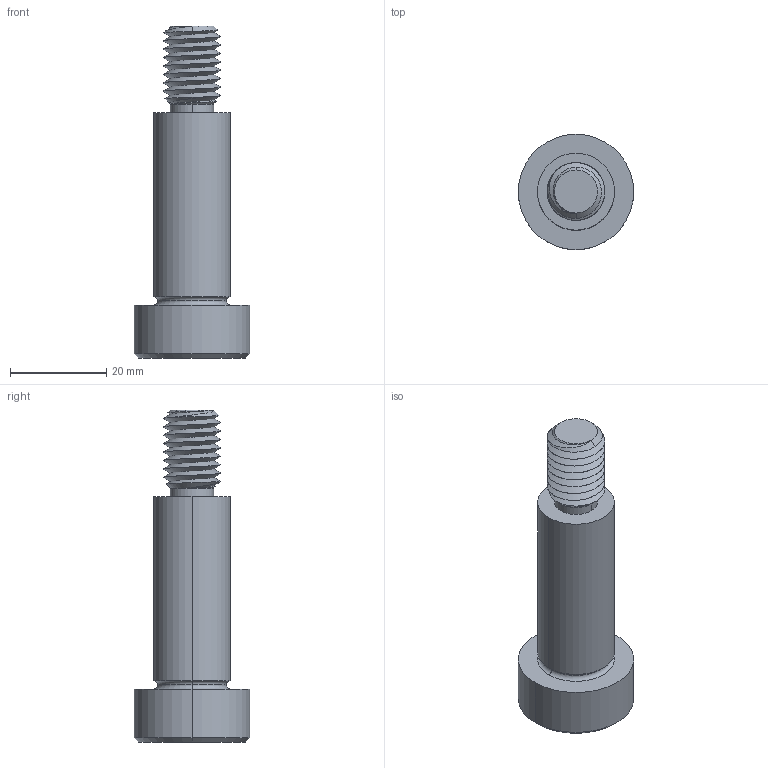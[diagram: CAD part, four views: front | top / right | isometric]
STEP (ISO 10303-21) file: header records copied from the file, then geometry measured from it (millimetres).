
FILE_DESCRIPTION (( 'STEP AP203' ), '1' );
FILE_NAME ('P0130.160-040-B2.step', '2021-11-09T22:14:28', ( '' ), ( '' ), 'SwSTEP 2.0', 'SolidWorks 2019', '' );
FILE_SCHEMA (( 'CONFIG_CONTROL_DESIGN' ));
Length unit declared in the file: millimetre
Products named in the file (1): P0130.160-040-B2
Bounding box: 24 x 24 x 69 mm (x, y, z)
Volume: 13947 mm3; surface area: 5053.7 mm2
Topology: 1 solids, 1 shells, 59 faces, 139 edges, 83 vertices
Faces by surface type: cylinder 22, plane 16, cone 15, torus 4, bspline 2
Entity records: 5164 total; most frequent: CARTESIAN_POINT 3839, ORIENTED_EDGE 274, DIRECTION 244, EDGE_CURVE 137, AXIS2_PLACEMENT_3D 98, VERTEX_POINT 83, EDGE_LOOP 62, ADVANCED_FACE 59
